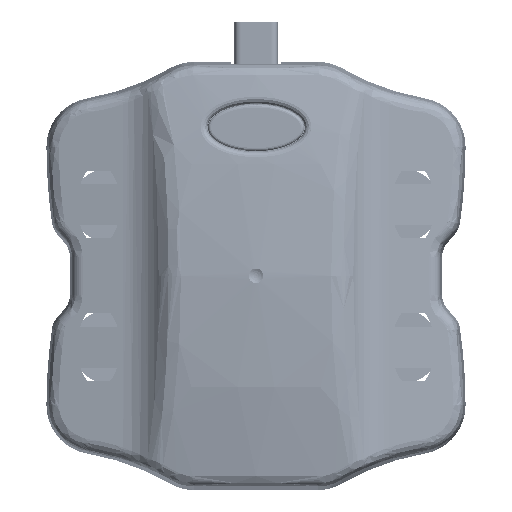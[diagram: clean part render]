
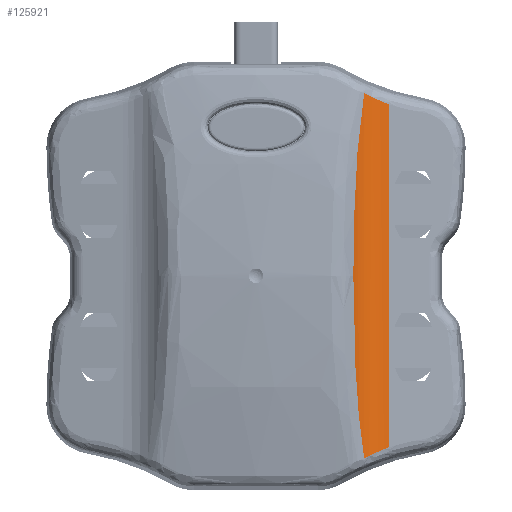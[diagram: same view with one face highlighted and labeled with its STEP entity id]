
A CAD part, top view. The second image highlights one B-rep face of the part: STEP entity #125921.
In plain terms, the highlighted cylindrical face has radius 8.906 mm (diameter 17.812 mm), a partial arc.
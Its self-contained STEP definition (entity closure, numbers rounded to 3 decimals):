
#56220=CYLINDRICAL_SURFACE('',#251759,8.906);
#57824=LINE('',#316395,#81134);
#81134=VECTOR('',#264878,1.);
#107172=FACE_OUTER_BOUND('',#138007,.T.);
#125921=ADVANCED_FACE('',(#107172),#56220,.F.);
#138007=EDGE_LOOP('',(#150135,#150136,#150137,#150138,#150139));
#150135=ORIENTED_EDGE('',*,*,#222791,.T.);
#150136=ORIENTED_EDGE('',*,*,#222648,.T.);
#150137=ORIENTED_EDGE('',*,*,#222334,.T.);
#150138=ORIENTED_EDGE('',*,*,#222792,.T.);
#150139=ORIENTED_EDGE('',*,*,#222793,.T.);
#204697=VERTEX_POINT('',#313680);
#204698=VERTEX_POINT('',#313696);
#204755=VERTEX_POINT('',#314278);
#205006=VERTEX_POINT('',#316396);
#205007=VERTEX_POINT('',#316411);
#222334=EDGE_CURVE('',#204698,#204697,#249991,.T.);
#222648=EDGE_CURVE('',#204755,#204698,#250072,.T.);
#222791=EDGE_CURVE('',#205006,#204755,#57824,.T.);
#222792=EDGE_CURVE('',#204697,#205007,#250104,.T.);
#222793=EDGE_CURVE('',#205007,#205006,#250105,.T.);
#249991=B_SPLINE_CURVE_WITH_KNOTS('',3,(#313681,#313682,#313683,#313684,
#313685,#313686,#313687,#313688,#313689,#313690,#313691,#313692,#313693,
#313694,#313695),.UNSPECIFIED.,.F.,.F.,(4,2,2,2,1,2,2,4),(0.,0.25,
0.375,0.438,0.469,0.484,
0.5,1.),.UNSPECIFIED.);
#250072=B_SPLINE_CURVE_WITH_KNOTS('',3,(#315559,#315560,#315561,#315562),
 .UNSPECIFIED.,.F.,.F.,(4,4),(0.,1.),.UNSPECIFIED.);
#250104=B_SPLINE_CURVE_WITH_KNOTS('',3,(#316397,#316398,#316399,#316400,
#316401,#316402,#316403,#316404,#316405,#316406,#316407,#316408,#316409,
#316410),.UNSPECIFIED.,.F.,.F.,(4,2,2,1,1,2,2,4),(0.,0.25,
0.375,0.437,0.469,0.484,
0.5,1.),.UNSPECIFIED.);
#250105=B_SPLINE_CURVE_WITH_KNOTS('',3,(#316412,#316413,#316414,#316415,
#316416,#316417,#316418,#316419,#316420,#316421,#316422,#316423,#316424,
#316425),.UNSPECIFIED.,.F.,.F.,(4,2,2,2,2,2,4),(0.,0.25,0.375,
0.438,0.469,0.5,1.),.UNSPECIFIED.);
#251759=AXIS2_PLACEMENT_3D('',#316426,#264879,#264880);
#264878=DIRECTION('',(0.,1.,0.));
#264879=DIRECTION('',(0.,-1.,0.));
#264880=DIRECTION('',(0.,0.,1.));
#313680=CARTESIAN_POINT('',(15.787,0.,13.497));
#313681=CARTESIAN_POINT('',(17.544,29.595,11.715));
#313682=CARTESIAN_POINT('',(17.201,27.548,11.976));
#313683=CARTESIAN_POINT('',(16.92,25.297,12.23));
#313684=CARTESIAN_POINT('',(16.572,21.615,12.573));
#313685=CARTESIAN_POINT('',(16.468,20.337,12.682));
#313686=CARTESIAN_POINT('',(16.33,18.343,12.833));
#313687=CARTESIAN_POINT('',(16.286,17.666,12.882));
#313688=CARTESIAN_POINT('',(16.225,16.631,12.952));
#313689=CARTESIAN_POINT('',(16.195,16.108,12.986));
#313690=CARTESIAN_POINT('',(16.167,15.579,13.019));
#313691=CARTESIAN_POINT('',(16.149,15.224,13.04));
#313692=CARTESIAN_POINT('',(16.138,15.017,13.053));
#313693=CARTESIAN_POINT('',(15.893,10.09,13.345));
#313694=CARTESIAN_POINT('',(15.787,5.134,13.497));
#313695=CARTESIAN_POINT('',(15.787,0.,13.497));
#313696=CARTESIAN_POINT('',(17.544,29.595,11.715));
#314278=CARTESIAN_POINT('',(21.552,27.808,10.));
#315559=CARTESIAN_POINT('',(21.552,27.808,10.));
#315560=CARTESIAN_POINT('',(20.102,28.404,10.23));
#315561=CARTESIAN_POINT('',(18.711,28.999,10.825));
#315562=CARTESIAN_POINT('',(17.544,29.595,11.715));
#316395=CARTESIAN_POINT('',(21.552,46.,10.));
#316396=CARTESIAN_POINT('',(21.552,-27.808,10.));
#316397=CARTESIAN_POINT('',(15.787,0.,13.497));
#316398=CARTESIAN_POINT('',(15.787,-2.565,13.497));
#316399=CARTESIAN_POINT('',(15.814,-5.086,13.46));
#316400=CARTESIAN_POINT('',(15.898,-8.801,13.35));
#316401=CARTESIAN_POINT('',(15.934,-10.028,13.304));
#316402=CARTESIAN_POINT('',(15.998,-11.851,13.223));
#316403=CARTESIAN_POINT('',(16.034,-12.759,13.179));
#316404=CARTESIAN_POINT('',(16.08,-13.811,13.122));
#316405=CARTESIAN_POINT('',(16.101,-14.26,13.097));
#316406=CARTESIAN_POINT('',(16.116,-14.559,13.08));
#316407=CARTESIAN_POINT('',(16.121,-14.678,13.073));
#316408=CARTESIAN_POINT('',(16.416,-20.586,12.723));
#316409=CARTESIAN_POINT('',(16.859,-25.499,12.237));
#316410=CARTESIAN_POINT('',(17.544,-29.595,11.715));
#316411=CARTESIAN_POINT('',(17.544,-29.595,11.715));
#316412=CARTESIAN_POINT('',(17.544,-29.595,11.715));
#316413=CARTESIAN_POINT('',(17.55,-29.592,11.71));
#316414=CARTESIAN_POINT('',(17.696,-29.514,11.592));
#316415=CARTESIAN_POINT('',(18.152,-29.287,11.288));
#316416=CARTESIAN_POINT('',(18.345,-29.193,11.165));
#316417=CARTESIAN_POINT('',(18.701,-29.024,10.965));
#316418=CARTESIAN_POINT('',(18.831,-28.963,10.896));
#316419=CARTESIAN_POINT('',(19.045,-28.865,10.789));
#316420=CARTESIAN_POINT('',(19.119,-28.831,10.754));
#316421=CARTESIAN_POINT('',(19.273,-28.761,10.682));
#316422=CARTESIAN_POINT('',(19.386,-28.71,10.632));
#316423=CARTESIAN_POINT('',(20.242,-28.324,10.265));
#316424=CARTESIAN_POINT('',(20.964,-28.031,10.093));
#316425=CARTESIAN_POINT('',(21.552,-27.808,10.));
#316426=CARTESIAN_POINT('',(22.945,46.,18.797));
